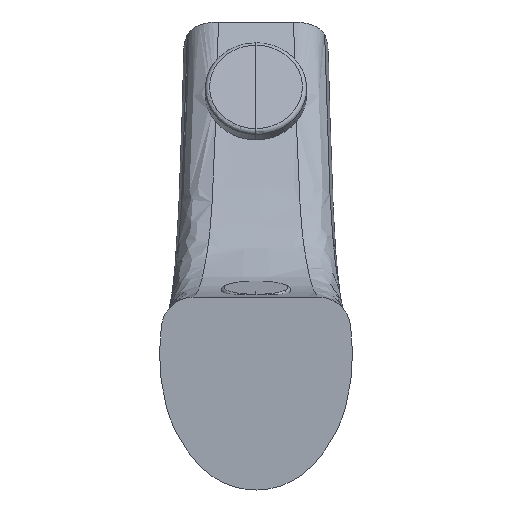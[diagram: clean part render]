
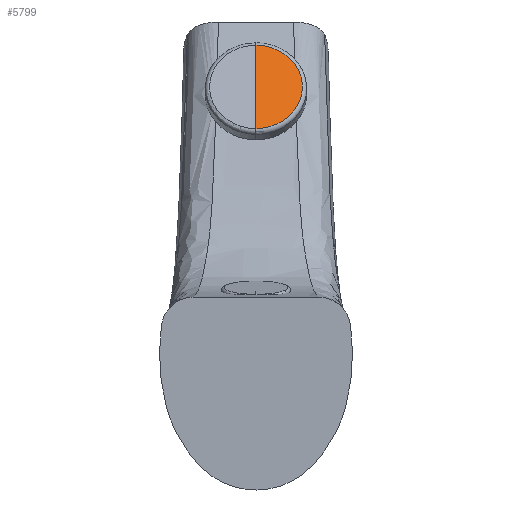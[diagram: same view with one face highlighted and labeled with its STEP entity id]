
A CAD part, front view. The second image highlights one B-rep face of the part: STEP entity #5799.
In plain terms, the highlighted planar face has unit normal (0, -0.899, 0.438).
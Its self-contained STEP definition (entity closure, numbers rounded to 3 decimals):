
#438 = CARTESIAN_POINT ( 'NONE',  ( 21.803, 106.909, 185.205 ) ) ;
#461 = CARTESIAN_POINT ( 'NONE',  ( 0., 97.459, 165.831 ) ) ;
#920 = CARTESIAN_POINT ( 'NONE',  ( 18.882, 111.688, 195.003 ) ) ;
#955 = ORIENTED_EDGE ( 'NONE', *, *, #4465, .F. ) ;
#1049 = EDGE_CURVE ( 'NONE', #3504, #6008, #3432, .T. ) ;
#1369 = CARTESIAN_POINT ( 'NONE',  ( 0., 97.459, 165.831 ) ) ;
#1397 = PLANE ( 'NONE',  #5272 ) ;
#1415 = CARTESIAN_POINT ( 'NONE',  ( 10.902, 115.186, 202.176 ) ) ;
#1475 = CARTESIAN_POINT ( 'NONE',  ( 0., 97.459, 165.831 ) ) ;
#1874 = CARTESIAN_POINT ( 'NONE',  ( 5.642, 97.678, 166.278 ) ) ;
#1879 = DIRECTION ( 'NONE',  ( 0., 0.899, -0.438 ) ) ;
#1896 = CARTESIAN_POINT ( 'NONE',  ( 0., 116.358, 204.578 ) ) ;
#2863 = CARTESIAN_POINT ( 'NONE',  ( 18.882, 102.13, 175.406 ) ) ;
#2869 = CARTESIAN_POINT ( 'NONE',  ( 0., 116.358, 204.578 ) ) ;
#3354 = CARTESIAN_POINT ( 'NONE',  ( 21.06, 109.382, 190.277 ) ) ;
#3432 = B_SPLINE_CURVE_WITH_KNOTS ( 'NONE', 3,
 ( #1369, #4825, #1874, #5315, #5811, #2863, #6303, #438, #3354, #920, #3852, #1415, #4849, #4348, #1896 ),
 .UNSPECIFIED., .F., .F.,
 ( 4, 1, 1, 1, 1, 1, 1, 1, 1, 1, 1, 1, 4 ),
 ( 0., 0.083, 0.167, 0.25, 0.333, 0.417, 0.5, 0.583, 0.667, 0.75, 0.833, 0.917, 1. ),
 .UNSPECIFIED. ) ;
#3504 = VERTEX_POINT ( 'NONE', #461 ) ;
#3810 = LINE ( 'NONE', #1475, #3969 ) ;
#3852 = CARTESIAN_POINT ( 'NONE',  ( 15.417, 113.667, 199.061 ) ) ;
#3969 = VECTOR ( 'NONE', #4414, 1000. ) ;
#4348 = CARTESIAN_POINT ( 'NONE',  ( 1.883, 116.36, 204.584 ) ) ;
#4414 = DIRECTION ( 'NONE',  ( 0., 0.438, 0.899 ) ) ;
#4465 = EDGE_CURVE ( 'NONE', #3504, #6008, #3810, .T. ) ;
#4825 = CARTESIAN_POINT ( 'NONE',  ( 1.883, 97.457, 165.825 ) ) ;
#4830 = CARTESIAN_POINT ( 'NONE',  ( 0., 106.909, 185.205 ) ) ;
#4849 = CARTESIAN_POINT ( 'NONE',  ( 5.642, 116.14, 204.131 ) ) ;
#5272 = AXIS2_PLACEMENT_3D ( 'NONE', #4830, #1879, #5322 ) ;
#5315 = CARTESIAN_POINT ( 'NONE',  ( 10.902, 98.631, 168.233 ) ) ;
#5322 = DIRECTION ( 'NONE',  ( 0., -0.438, -0.899 ) ) ;
#5570 = EDGE_LOOP ( 'NONE', ( #955, #5742 ) ) ;
#5742 = ORIENTED_EDGE ( 'NONE', *, *, #1049, .T. ) ;
#5799 = ADVANCED_FACE ( 'NONE', ( #6065 ), #1397, .F. ) ;
#5811 = CARTESIAN_POINT ( 'NONE',  ( 15.417, 100.15, 171.348 ) ) ;
#6008 = VERTEX_POINT ( 'NONE', #2869 ) ;
#6065 = FACE_OUTER_BOUND ( 'NONE', #5570, .T. ) ;
#6303 = CARTESIAN_POINT ( 'NONE',  ( 21.06, 104.435, 180.133 ) ) ;
